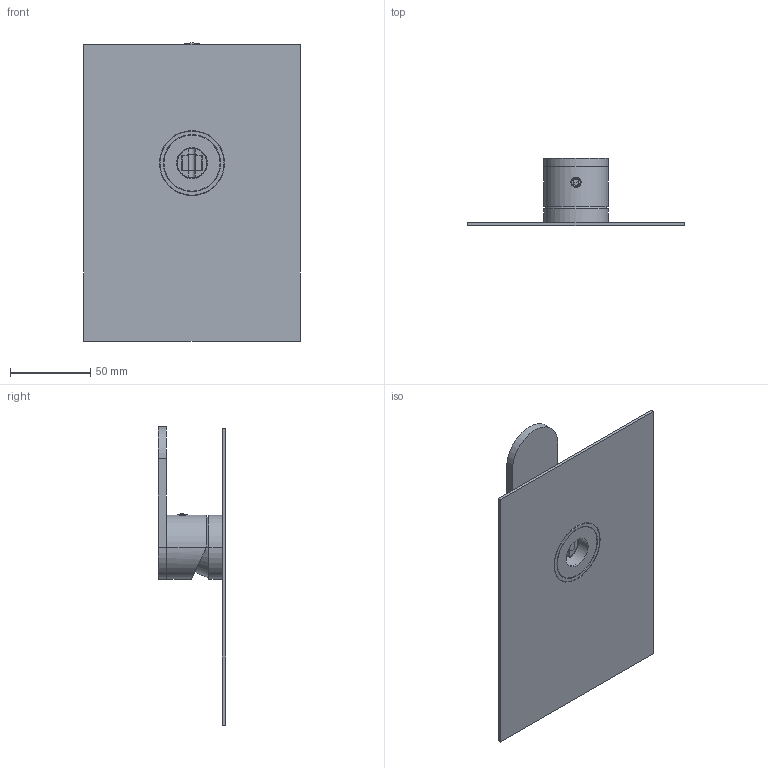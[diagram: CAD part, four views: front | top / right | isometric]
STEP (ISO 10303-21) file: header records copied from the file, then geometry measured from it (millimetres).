
FILE_DESCRIPTION((''),'2;1');
FILE_NAME('7952121_SW0001','2026-10-05T16:24:01',('carloff'),(''),'CREO PARAMETRIC BY PTC INC, 2025443','CREO PARAMETRIC BY PTC INC, 2025443','');
FILE_SCHEMA(('CONFIG_CONTROL_DESIGN'));
Length unit declared in the file: millimetre
Products named in the file (1): 7952121_SW0001
Bounding box: 135 x 42 x 186 mm (x, y, z)
Volume: 96078.5 mm3; surface area: 74089.8 mm2
Topology: 3 solids, 4 shells, 414 faces, 1194 edges, 797 vertices
Faces by surface type: plane 188, cylinder 137, torus 48, cone 34, bspline 5, sphere 2
Entity records: 15553 total; most frequent: CARTESIAN_POINT 4470, ORIENTED_EDGE 2380, DIRECTION 2294, EDGE_CURVE 1190, AXIS2_PLACEMENT_3D 822, VERTEX_POINT 797, VECTOR 650, LINE 650
